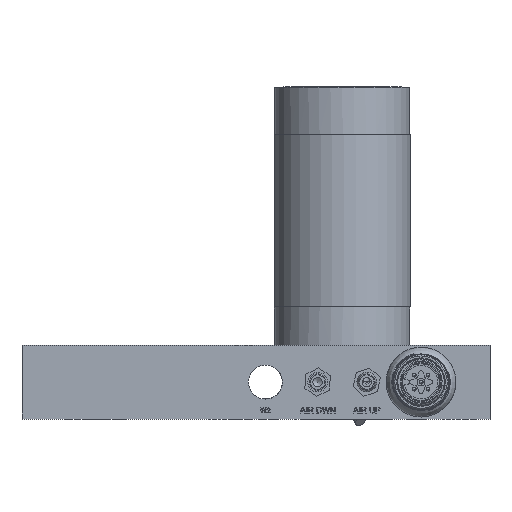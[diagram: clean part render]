
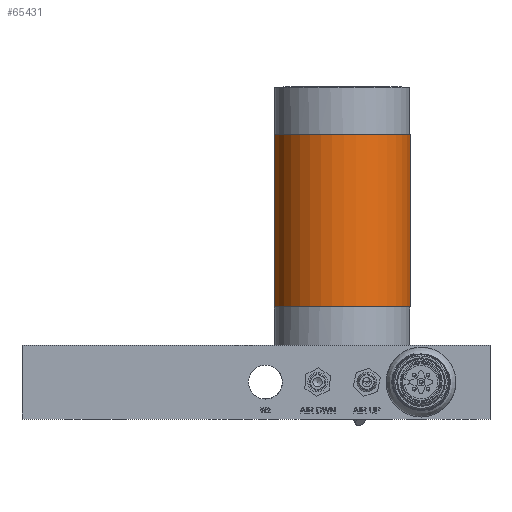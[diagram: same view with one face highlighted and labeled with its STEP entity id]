
A CAD part, front view. The second image highlights one B-rep face of the part: STEP entity #65431.
In plain terms, the highlighted cylindrical face has radius 17.59 mm (diameter 35.179 mm), a full revolution.
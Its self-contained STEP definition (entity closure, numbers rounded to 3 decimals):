
#4112=CYLINDRICAL_SURFACE('',#71279,17.59);
#6901=FACE_OUTER_BOUND('',#10978,.T.);
#10978=EDGE_LOOP('',(#50929,#50930,#50931,#50932));
#19423=CIRCLE('',#71272,17.59);
#19426=CIRCLE('',#71276,17.59);
#20113=LINE('',#171225,#22263);
#22263=VECTOR('',#81551,17.59);
#27413=VERTEX_POINT('',#171211);
#27416=VERTEX_POINT('',#171218);
#35711=EDGE_CURVE('',#27413,#27413,#19423,.T.);
#35714=EDGE_CURVE('',#27416,#27416,#19426,.T.);
#35717=EDGE_CURVE('',#27416,#27413,#20113,.T.);
#50929=ORIENTED_EDGE('',*,*,#35714,.T.);
#50930=ORIENTED_EDGE('',*,*,#35717,.T.);
#50931=ORIENTED_EDGE('',*,*,#35711,.F.);
#50932=ORIENTED_EDGE('',*,*,#35717,.F.);
#65431=ADVANCED_FACE('',(#6901),#4112,.T.);
#71272=AXIS2_PLACEMENT_3D('',#171212,#81535,#81536);
#71276=AXIS2_PLACEMENT_3D('',#171219,#81543,#81544);
#71279=AXIS2_PLACEMENT_3D('',#171224,#81549,#81550);
#81535=DIRECTION('center_axis',(0.,0.,
-1.));
#81536=DIRECTION('ref_axis',(-1.,-0.026,0.));
#81543=DIRECTION('center_axis',(0.,0.,
-1.));
#81544=DIRECTION('ref_axis',(-1.,-0.026,0.));
#81549=DIRECTION('center_axis',(0.,0.,
1.));
#81550=DIRECTION('ref_axis',(-1.,-0.026,0.));
#81551=DIRECTION('',(0.,0.,-1.));
#171211=CARTESIAN_POINT('',(17.583,0.46,28.892));
#171212=CARTESIAN_POINT('Origin',(0.,0.,
28.892));
#171218=CARTESIAN_POINT('',(17.583,0.46,73.342));
#171219=CARTESIAN_POINT('Origin',(0.,0.,
73.342));
#171224=CARTESIAN_POINT('Origin',(0.,0.,
28.892));
#171225=CARTESIAN_POINT('',(17.583,0.46,28.892));
